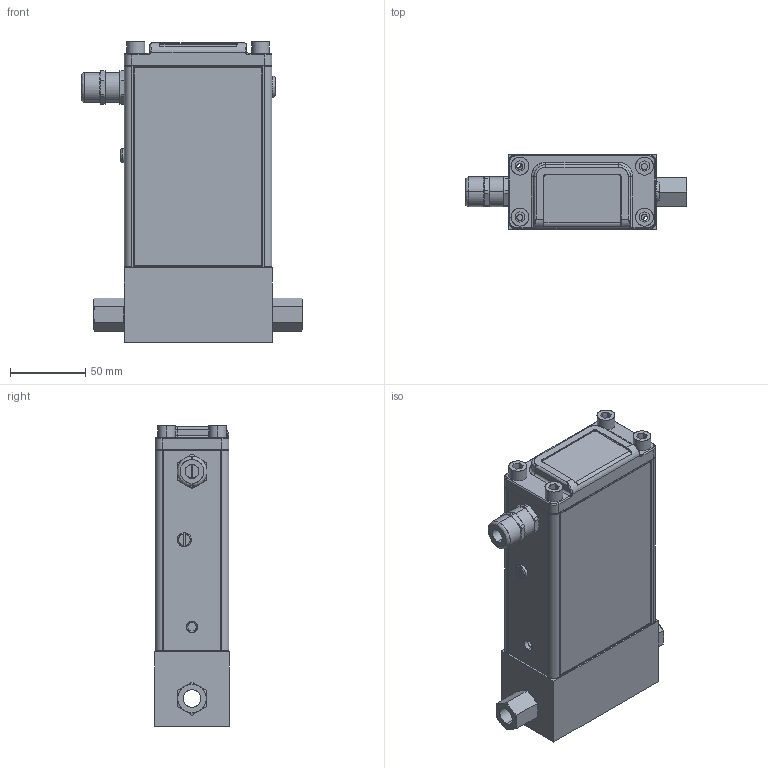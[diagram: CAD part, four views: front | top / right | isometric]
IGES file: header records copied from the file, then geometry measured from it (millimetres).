
Start section: SolidWorks IGES file using analytic representation for surfaces
Global section: file name: G:\Engineering\CAD MODELS FOR SALES\CAD MODEL STORAGE\SLA\SLAMF60\CUSTOMER FILES\IGES\SLAMF60S1Gxx0Gxxx.IGS; native system: SolidWorks 2014; preprocessor: SolidWorks 2014; author: CFehr; date: 170228.131606; units: inch
Bounding box: 147 x 49.5 x 199.98 mm (x, y, z)
Surface area: 97870.4 mm2 (no closed solid volume)
Topology: 0 solids, 0 shells, 440 faces, 4669 edges, 4665 vertices
Faces by surface type: bspline 334, revolution 106
